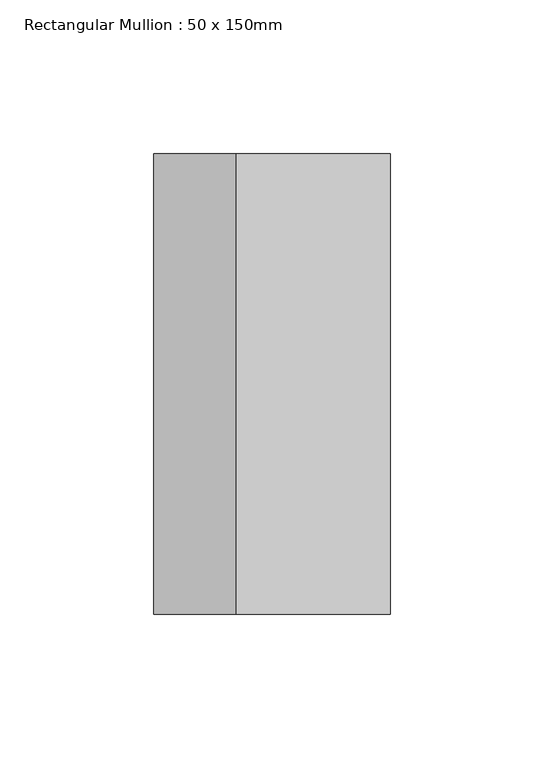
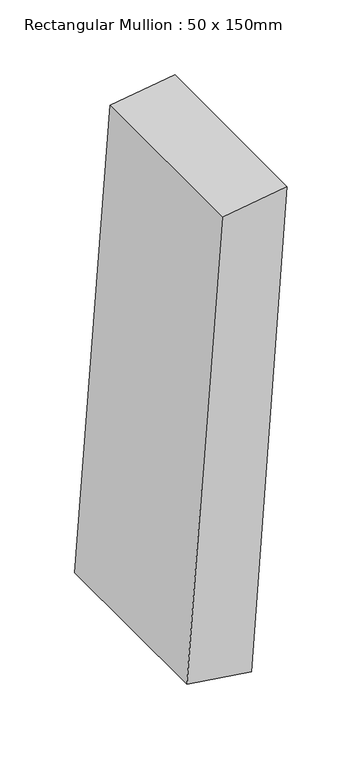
"""IFC4 building model written with IfcOpenShell, lengths in millimetres: member geometry, Rectangular Mullion : 50 x 150mm."""

from ifc_helpers import new_model, si_unit, point, frame, frame_2d, origin, place, context, project, spatial, polyline, circle_curve, trimmed, segment, composite_curve, outline, extrude, source, transform, mapped, element, save


def rectangular_mullion_50_x_150mm_107027ef(model_context):
    return source(origin(), model_context, "Body", "SweptSolid", [
        extrude(outline(composite_curve([segment(trimmed(circle_curve(frame_2d((0.0, -2710.0942185)), 2710.0942185), [point((-385.0883598, -27.4989027))], [point((0.0, 0.0))], False, "CARTESIAN"), True, "CONTINUOUS"), segment(polyline([(0.0, 0.0), (-7.2823133, -50.0099681)]), True, "CONTINUOUS"), segment(trimmed(circle_curve(frame_2d((0.0, -2710.0942185)), 2660.0942185), [point((-7.2823133, -50.0099681))], [point((-377.9836556, -76.9915605))], True, "CARTESIAN"), True, "CONTINUOUS"), segment(polyline([(-377.9836556, -76.9915605), (-385.0883598, -27.4989027)]), True, "CONTINUOUS")], self_intersect=False)), frame((0.0, -75.0, 0.0), z_axis=(0.0, 1.0, 0.0), x_axis=(0.0, 0.0, 1.0)), (0.0, 0.0, 1.0), 150.0),
    ])


if __name__ == "__main__":
    model = new_model("IFC4")
    model_context = context("Model", 3, world=origin())
    ifc_project = project(units=[si_unit("LENGTHUNIT", "METRE", prefix="MILLI")], contexts=[model_context])
    site = spatial("IfcSite", under=ifc_project)
    building = spatial("IfcBuilding", under=site)
    placement = place(None, origin())
    rectangular_mullion_50_x_150mm_shape = rectangular_mullion_50_x_150mm_107027ef(model_context)
    element("IfcMember", 1, ObjectType="Rectangular Mullion : 50 x 150mm", at=placement, inside=building, context=model_context, shape_type="MappedRepresentation", body=[
        mapped(rectangular_mullion_50_x_150mm_shape, transform((0.0, 0.0, 0.0), x_axis=(1.0, 0.0, 0.0), y_axis=(0.0, 1.0, 0.0), z_axis=(0.0, 0.0, 1.0))),
    ])
    save(model, "model.ifc")
